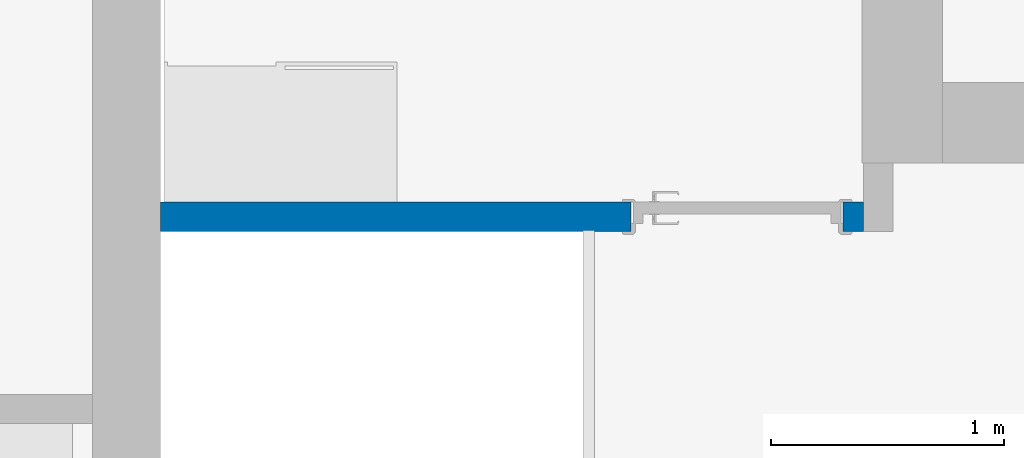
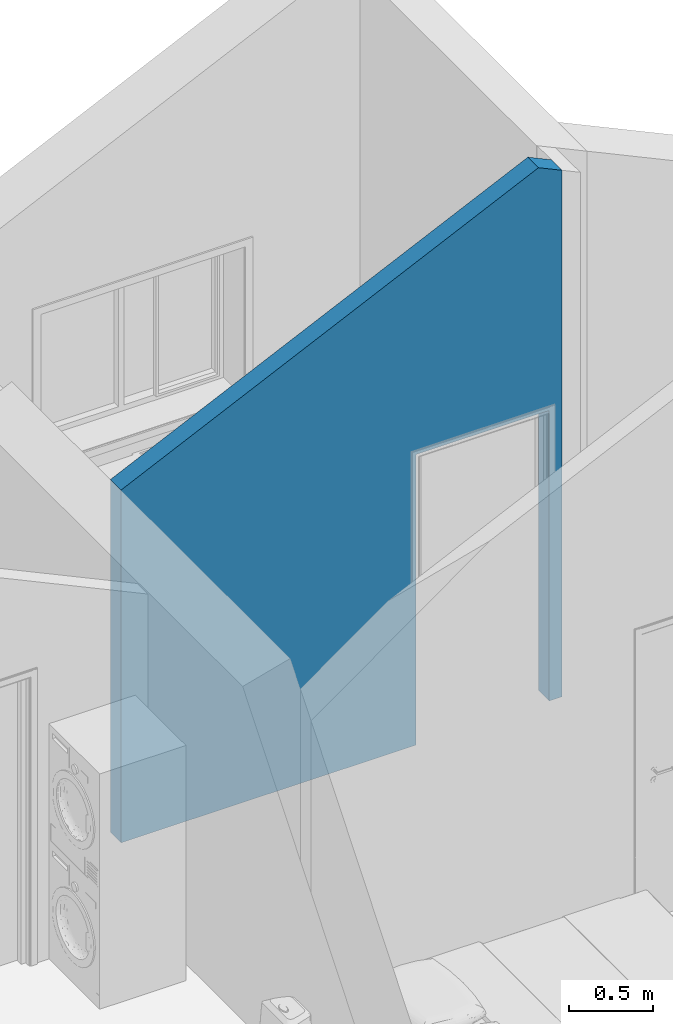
# One storey, part 13 of 44: 1 wall, 1 opening.
"""IFC2X3 building model written with IfcOpenShell, lengths in millimetres."""

from ifc_helpers import new_model, entity, si_unit, converted_unit, direction, frame, frame_2d, origin, place, context, subcontext, project, spatial, polyline, rectangle, extrude, clip, bounded_halfspace, material, layer, layer_set, layer_usage, type_object, element, save


model = new_model("IFC2X3")

# Units and contexts
model_context = context("Model", 3, precision=0.01, world=origin(), true_north=direction((0.0, 1.0)))
body_context = subcontext(model_context, "Body", "Model", "MODEL_VIEW")
ifc_project = project(units=[si_unit("LENGTHUNIT", "METRE", prefix="MILLI"), si_unit("AREAUNIT", "SQUARE_METRE"), si_unit("VOLUMEUNIT", "CUBIC_METRE"), converted_unit("PLANEANGLEUNIT", "DEGREE", entity("IfcPlaneAngleMeasure", 0.017453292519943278), si_unit("PLANEANGLEUNIT", "RADIAN"), dimensions=[0, 0, 0, 0, 0, 0, 0])], contexts=[model_context])

# Site, building, storey
site_placement = place(None, origin())
site = spatial("IfcSite", under=ifc_project, at=site_placement, Name="Default", CompositionType="ELEMENT")
building_placement = place(site_placement, origin())
building = spatial("IfcBuilding", under=site, at=building_placement, CompositionType="ELEMENT")
storey_placement = place(building_placement, frame((0.0, 0.0, 2681.0)))
storey = spatial("IfcBuildingStorey", under=building, at=storey_placement, Name="Et. 2", CompositionType="ELEMENT", Elevation=2681.0)

# Wall, opening
ifc_material_1 = material(Name="Vegg - Gips - Innvendig - Hvit")
ifc_layer_1 = layer(ifc_material_1, 13.000000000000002)
ifc_material_2 = material(Name="Vegg - Stender - Stål - Isolert")
ifc_layer_2 = layer(ifc_material_2, 100.0)
ifc_layer_3 = layer(ifc_material_1, 13.000000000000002)
ifc_layer_set = layer_set([ifc_layer_1, ifc_layer_2, ifc_layer_3], Name="Basic Wall:24-GSIG-13_100_13")
ifc_layer_usage = layer_usage(ifc_layer_set, "AXIS2", "NEGATIVE", 63.00000000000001)
wall_type = type_object("IfcWallType", Name="Basic Wall:24-GSIG-13_100_13", PredefinedType="STANDARD", material=ifc_layer_set)
wall_placement = place(storey_placement, frame((22324.009586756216, 14419.18095768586, 0.0)))
wall = element("IfcWallStandardCase", 1, at=wall_placement, inside=storey, type_object=wall_type, material=ifc_layer_usage, Name="Basic Wall:24-GSIG-13_100_13", context=body_context, shape_type="Clipping", body=[
    clip(clip(extrude(rectangle(XDim=3013.9999999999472, YDim=126.00000000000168, at=frame_2d((1506.9999999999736, -1.5631940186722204e-13), x_axis=(-1.0, 0.0))), origin(), (0.0, 0.0, 1.0), 3879.5941993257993), bounded_halfspace(frame((0.0, -63.0, 2548.752142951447), z_axis=(-0.42261826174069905, 0.0, 0.9063077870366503), x_axis=(0.0, -1.0, 0.0)), False, frame((0.0, -63.0, 2548.752142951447)), polyline([(0.0, 0.0), (2854.0, 0.0), (2854.0, 126.0), (0.0, 126.0), (0.0, 0.0)]))), bounded_halfspace(frame((2854.0, -63.0, 3879.5941993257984), z_axis=(0.42261826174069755, 0.0, 0.9063077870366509), x_axis=(0.0, 1.0, 0.0)), False, frame((2854.0, -63.0, 3879.5941993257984)), polyline([(0.0, 0.0), (160.0, 0.0), (160.0, 126.0), (0.0, 126.0), (0.0, 0.0)]))),
])
opening_placement = place(wall_placement, frame((2017.0, -63.0, 0.0)))
element("IfcOpeningElement", 2, at=opening_placement, cuts=wall, Name="ID Hel:9x21M:1", ObjectType="Opening", context=body_context, shape_type="SweptSolid", body=[
    extrude(rectangle(XDim=910.0000000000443, YDim=2100.0000000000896, at=frame_2d((1050.0000000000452, 455.00000000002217), x_axis=(0.0, 1.0))), frame((0.0, 0.0, 0.0), z_axis=(0.0, 1.0, 0.0), x_axis=(0.0, 0.0, 1.0)), (0.0, 0.0, 1.0), 126.00000000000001),
])

save(model, "model.ifc")
